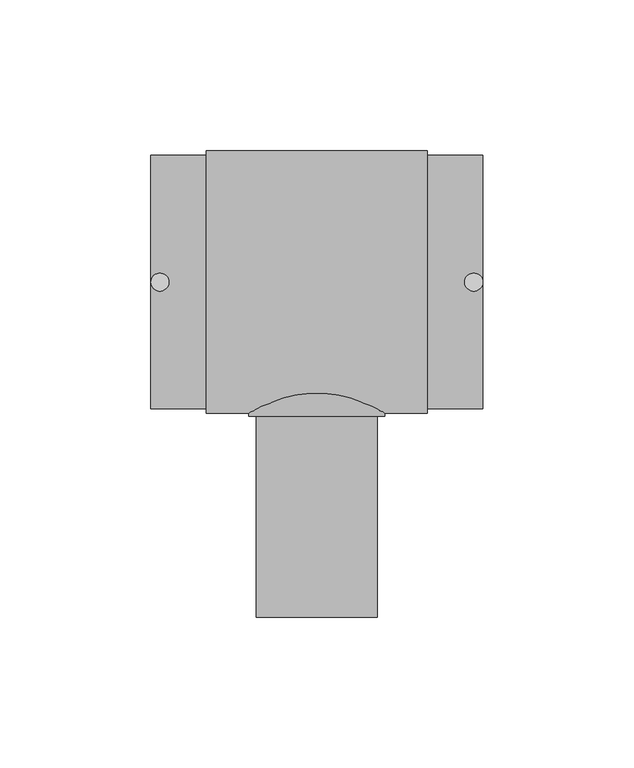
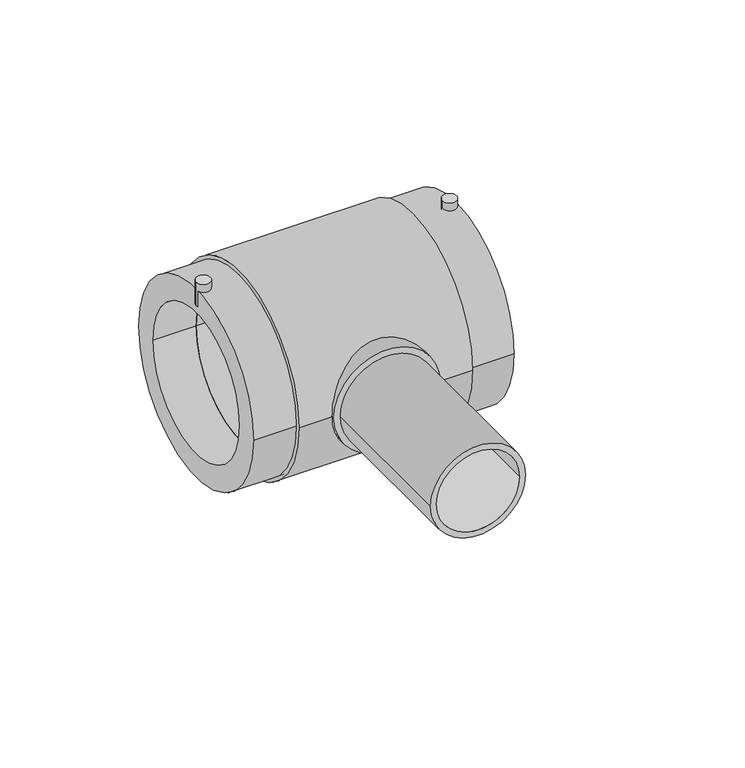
"""IFC4 building model written with IfcOpenShell, lengths in millimetres: pipe fitting geometry, EGB_VASEN_ PPR_Te electrosoldable WXRD300_Te reducida electrosoldable WXRD310 : Te electrosoldable."""

import ifcopenshell
import ifcopenshell.guid

model = None  # the IFC model being written
_history = None  # IfcOwnerHistory: only IFC2X3 demands one
_inside = {}  # id of a spatial element -> (the spatial element, [elements in it])
_under = {}  # id of a project, library or spatial element -> (it, [spatial elements below it])
_declared = {}  # id of a project -> (the project, [libraries it declares])
_typed = {}  # id of a type object -> (the type object, [elements of that type])
_made_of = {}  # id of a material, layer set ... -> (it, [elements and type objects made of it])


def new_model(schema):
    """Start an empty IFC model of exactly this schema.

    Asked for "IFC4X3", IfcOpenShell would pick the latest addendum, in which some entities
    have other attributes; the version numbers below select the first issue.
    IFC2X3 requires an IfcOwnerHistory on every rooted entity: one is made here for all.
    """
    global model, _history
    if schema == "IFC4X3":
        model = ifcopenshell.file(schema_version=(4, 3, 0, 0))
    else:
        model = ifcopenshell.file(schema=schema)
    _inside.clear()
    _under.clear()
    _declared.clear()
    _typed.clear()
    _made_of.clear()
    _history = None
    if model.schema == "IFC2X3":
        org = make("IfcOrganization", Name="unknown")
        user = make(
            "IfcPersonAndOrganization",
            ThePerson=make("IfcPerson", FamilyName="unknown"),
            TheOrganization=org,
        )
        app = make(
            "IfcApplication",
            ApplicationDeveloper=org,
            Version="unknown",
            ApplicationFullName="unknown",
            ApplicationIdentifier="unknown",
        )
        _history = make(
            "IfcOwnerHistory",
            OwningUser=user,
            OwningApplication=app,
            ChangeAction="ADDED",
            CreationDate=0,
        )
    return model


def make(cls, **values):
    """One entity of the class cls with the attributes given. An attribute that is None is left unset."""
    return model.create_entity(
        cls, **{name: value for name, value in values.items() if value is not None}
    )


def rooted(cls, **values):
    """An entity with a GlobalId (a new one), such as an element, a storey or a relation."""
    return make(cls, GlobalId=ifcopenshell.guid.new(), OwnerHistory=_history, **values)


def si_unit(unit_type, name, prefix=None):
    """IfcSIUnit, for example si_unit("LENGTHUNIT", "METRE", prefix="MILLI")."""
    return make("IfcSIUnit", UnitType=unit_type, Prefix=prefix, Name=name)


def assignment(units):
    """IfcUnitAssignment: the units of a project."""
    return None if units is None else make("IfcUnitAssignment", Units=units)


def point(xyz):
    """IfcCartesianPoint."""
    return None if xyz is None else make("IfcCartesianPoint", Coordinates=xyz)


def direction(xyz):
    """IfcDirection."""
    return None if xyz is None else make("IfcDirection", DirectionRatios=xyz)


def frame(location, z_axis=None, x_axis=None):
    """IfcAxis2Placement3D, a coordinate frame: its origin and axes. An axis left out is left unset."""
    return make(
        "IfcAxis2Placement3D",
        Location=point(location),
        Axis=direction(z_axis),
        RefDirection=direction(x_axis),
    )


def frame_2d(location, x_axis=None):
    """IfcAxis2Placement2D, a coordinate frame in the plane: its origin and x axis."""
    return make(
        "IfcAxis2Placement2D", Location=point(location), RefDirection=direction(x_axis)
    )


def origin():
    """The frame at (0, 0, 0) with its axes left unset."""
    return frame((0.0, 0.0, 0.0))


def origin_2d():
    """The frame at (0, 0) in the plane with its x axis left unset."""
    return frame_2d((0.0, 0.0))


def place(relative_to, where):
    """IfcLocalPlacement: puts the frame where relative to a parent placement (None: the world)."""
    return make(
        "IfcLocalPlacement", PlacementRelTo=relative_to, RelativePlacement=where
    )


def context(
    kind, dimensions, precision=None, world=None, true_north=None, identifier=None
):
    """IfcGeometricRepresentationContext, for example the 3D "Model" context."""
    return make(
        "IfcGeometricRepresentationContext",
        ContextIdentifier=identifier,
        ContextType=kind,
        CoordinateSpaceDimension=dimensions,
        Precision=precision,
        WorldCoordinateSystem=world,
        TrueNorth=true_north,
    )


def project(units=None, contexts=None):
    """IfcProject with its units and contexts."""
    return rooted(
        "IfcProject",
        Name="project",
        RepresentationContexts=contexts,
        UnitsInContext=assignment(units),
    )


def spatial(cls, under=None, at=None, **own):
    """A site, building, storey or space (cls), placed at a placement, below another one or the project."""
    s = rooted(cls, ObjectPlacement=at, **own)
    if under is not None:
        _under.setdefault(under.id(), (under, []))[1].append(s)
    return s


def circle_curve(where, radius):
    """IfcCircle in the frame where."""
    return make("IfcCircle", Position=where, Radius=radius)


def trimmed(basis, trim1, trim2, sense, master):
    """IfcTrimmedCurve: the piece of a basis curve between two trims."""
    return make(
        "IfcTrimmedCurve",
        BasisCurve=basis,
        Trim1=trim1,
        Trim2=trim2,
        SenseAgreement=sense,
        MasterRepresentation=master,
    )


def segment(curve, same_sense, transition):
    """IfcCompositeCurveSegment."""
    return make(
        "IfcCompositeCurveSegment",
        Transition=transition,
        SameSense=same_sense,
        ParentCurve=curve,
    )


def composite_curve(segments, self_intersect=None):
    """IfcCompositeCurve: segments joined end to end."""
    return make("IfcCompositeCurve", Segments=segments, SelfIntersect=self_intersect)


def outline(outer, holes=None, kind="AREA"):
    """IfcArbitraryClosedProfileDef: a profile drawn as a closed curve; with holes, ...WithVoids."""
    if holes is None:
        return make("IfcArbitraryClosedProfileDef", ProfileType=kind, OuterCurve=outer)
    return make(
        "IfcArbitraryProfileDefWithVoids",
        ProfileType=kind,
        OuterCurve=outer,
        InnerCurves=holes,
    )


def extrude(swept, where, along, depth):
    """IfcExtrudedAreaSolid: the profile swept, set in the frame where, extruded along a direction by depth."""
    return make(
        "IfcExtrudedAreaSolid",
        SweptArea=swept,
        Position=where,
        ExtrudedDirection=direction(along),
        Depth=depth,
    )


def shape(context_of_items, identifier, shape_type, items):
    """IfcShapeRepresentation: the items that make up one representation, for example the "Body"."""
    return make(
        "IfcShapeRepresentation",
        ContextOfItems=context_of_items,
        RepresentationIdentifier=identifier,
        RepresentationType=shape_type,
        Items=items,
    )


def source(mapping_origin, context_of_items, identifier, shape_type, items):
    """IfcRepresentationMap: a shape defined once, which mapped items show again and again."""
    return make(
        "IfcRepresentationMap",
        MappingOrigin=mapping_origin,
        MappedRepresentation=shape(context_of_items, identifier, shape_type, items),
    )


def transform(
    local_origin,
    x_axis=None,
    y_axis=None,
    z_axis=None,
    scale=None,
    scale2=None,
    scale3=None,
    uniform=True,
):
    """IfcCartesianTransformationOperator3D, or its non-uniform kind. x_axis, y_axis, z_axis: its Axis1, 2, 3."""
    if uniform:
        return make(
            "IfcCartesianTransformationOperator3D",
            Axis1=direction(x_axis),
            Axis2=direction(y_axis),
            LocalOrigin=point(local_origin),
            Scale=scale,
            Axis3=direction(z_axis),
        )
    return make(
        "IfcCartesianTransformationOperator3DnonUniform",
        Axis1=direction(x_axis),
        Axis2=direction(y_axis),
        LocalOrigin=point(local_origin),
        Scale=scale,
        Axis3=direction(z_axis),
        Scale2=scale2,
        Scale3=scale3,
    )


def mapped(mapping_source, mapping_target):
    """IfcMappedItem: shows the shape of a source again, moved by a transform."""
    return make(
        "IfcMappedItem", MappingSource=mapping_source, MappingTarget=mapping_target
    )


def made_of(thing, what):
    """Note that an element or type object is made of a material, layer set ...; save() writes the relation."""
    if what is not None:
        _made_of.setdefault(what.id(), (what, []))[1].append(thing)
    return thing


def element(
    cls,
    number,
    at=None,
    inside=None,
    cuts=None,
    type_object=None,
    material=None,
    context=None,
    identifier="Body",
    shape_type=None,
    held_by="IfcProductDefinitionShape",
    body=None,
    shapes=None,
    **own,
):
    """One element of the class cls, such as IfcWall. Its Tag is "e" and its number.

    at: its placement. inside: the storey or other place that contains it. cuts: it is an
    opening in that element (IfcRelVoidsElement). A single representation is given by context,
    identifier, shape_type and body (its items); several are given by shapes. held_by: the class
    of the entity that holds the representations. save() writes the other relations.
    """
    e = rooted(cls, Tag="e%d" % number, ObjectPlacement=at, **own)
    if body is not None:
        shapes = [shape(context, identifier, shape_type, body)]
    if shapes is not None:
        e.Representation = make(held_by, Representations=shapes)
    if inside is not None:
        _inside.setdefault(inside.id(), (inside, []))[1].append(e)
    if cuts is not None:
        rooted(
            "IfcRelVoidsElement", RelatingBuildingElement=cuts, RelatedOpeningElement=e
        )
    if type_object is not None:
        _typed.setdefault(type_object.id(), (type_object, []))[1].append(e)
    return made_of(e, material)


def aggregate(whole, parts):
    """IfcRelAggregates: a whole, such as a stair, and the parts it consists of."""
    return rooted("IfcRelAggregates", RelatingObject=whole, RelatedObjects=parts)


def save(model, path):
    """Write the relations noted so far, then the file.

    IfcRelAggregates (storeys below a building ...), IfcRelContainedInSpatialStructure (elements
    in a storey), IfcRelDefinesByType, IfcRelAssociatesMaterial and IfcRelDeclares: one each for
    every whole, place, type object, material and project.
    """
    for whole, parts in _under.values():
        aggregate(whole, parts)
    for where, things in _inside.values():
        rooted(
            "IfcRelContainedInSpatialStructure",
            RelatedElements=things,
            RelatingStructure=where,
        )
    for kind, things in _typed.values():
        rooted("IfcRelDefinesByType", RelatedObjects=things, RelatingType=kind)
    for what, things in _made_of.values():
        rooted("IfcRelAssociatesMaterial", RelatedObjects=things, RelatingMaterial=what)
    for by, libraries in _declared.values():
        rooted("IfcRelDeclares", RelatingContext=by, RelatedDefinitions=libraries)
    model.write(path)


def pipe_fitting_9d0549a8(model_context):
    return source(origin(), model_context, "Body", "SweptSolid", [
        extrude(outline(composite_curve([segment(trimmed(circle_curve(frame_2d((-52.0, 0.0)), 3.0), [point((-55.0, 0.0))], [point((-49.0, 0.0))], False, "CARTESIAN"), True, "CONTINUOUS"), segment(trimmed(circle_curve(frame_2d((-52.0, 0.0)), 3.0), [point((-49.0, 0.0))], [point((-55.0, 0.0))], False, "CARTESIAN"), True, "CONTINUOUS")], self_intersect=False)), frame((0.0, 0.0, 34.5), z_axis=(0.0, 0.0, 1.0), x_axis=(1.0, 0.0, 0.0)), (0.0, 0.0, 1.0), 10.5),
        extrude(outline(composite_curve([segment(trimmed(circle_curve(frame_2d((52.0, 0.0)), 3.0), [point((49.0, 0.0))], [point((55.0, 0.0))], False, "CARTESIAN"), True, "CONTINUOUS"), segment(trimmed(circle_curve(frame_2d((52.0, 0.0)), 3.0), [point((55.0, 0.0))], [point((49.0, 0.0))], False, "CARTESIAN"), True, "CONTINUOUS")], self_intersect=False)), frame((0.0, 0.0, 34.5), z_axis=(0.0, 0.0, 1.0), x_axis=(1.0, 0.0, 0.0)), (0.0, 0.0, 1.0), 10.5),
        extrude(outline(composite_curve([segment(trimmed(circle_curve(origin_2d(), 22.5), [point((0.0, 22.5))], [point((0.0, -22.5))], False, "CARTESIAN"), True, "CONTINUOUS"), segment(trimmed(circle_curve(origin_2d(), 22.5), [point((0.0, -22.5))], [point((0.0, 22.5))], False, "CARTESIAN"), True, "CONTINUOUS")], self_intersect=False)), frame((0.0, -44.4, 0.0), z_axis=(0.0, 1.0, 0.0), x_axis=(0.0, 0.0, 1.0)), (0.0, 0.0, 1.0), 44.4),
        extrude(outline(composite_curve([segment(trimmed(circle_curve(origin_2d(), 20.0), [point((0.0, -20.0))], [point((0.0, 20.0))], False, "CARTESIAN"), True, "CONTINUOUS"), segment(trimmed(circle_curve(origin_2d(), 20.0), [point((0.0, 20.0))], [point((0.0, -20.0))], False, "CARTESIAN"), True, "CONTINUOUS")], self_intersect=False), holes=[composite_curve([segment(trimmed(circle_curve(origin_2d(), 17.5), [point((0.0, -17.5))], [point((0.0, 17.5))], True, "CARTESIAN"), True, "CONTINUOUS"), segment(trimmed(circle_curve(origin_2d(), 17.5), [point((0.0, 17.5))], [point((0.0, -17.5))], True, "CARTESIAN"), True, "CONTINUOUS")], self_intersect=False)]), frame((0.0, -111.0, 0.0), z_axis=(0.0, 1.0, 0.0), x_axis=(0.0, 0.0, 1.0)), (0.0, 0.0, 1.0), 66.6),
        extrude(outline(composite_curve([segment(trimmed(circle_curve(origin_2d(), 43.5), [point((-43.5, 0.0))], [point((43.5, 0.0))], False, "CARTESIAN"), True, "CONTINUOUS"), segment(trimmed(circle_curve(origin_2d(), 43.5), [point((43.5, 0.0))], [point((-43.5, 0.0))], False, "CARTESIAN"), True, "CONTINUOUS")], self_intersect=False), holes=[composite_curve([segment(trimmed(circle_curve(origin_2d(), 31.5), [point((-31.5, 0.0))], [point((31.5, 0.0))], True, "CARTESIAN"), True, "CONTINUOUS"), segment(trimmed(circle_curve(origin_2d(), 31.5), [point((31.5, 0.0))], [point((-31.5, 0.0))], True, "CARTESIAN"), True, "CONTINUOUS")], self_intersect=False)]), frame((-36.6666667, 0.0, 0.0), z_axis=(1.0, 0.0, 0.0), x_axis=(0.0, 1.0, 0.0)), (0.0, 0.0, 1.0), 73.3333333),
        extrude(outline(composite_curve([segment(trimmed(circle_curve(origin_2d(), 42.0), [point((-42.0, 0.0))], [point((42.0, 0.0))], False, "CARTESIAN"), True, "CONTINUOUS"), segment(trimmed(circle_curve(origin_2d(), 42.0), [point((42.0, 0.0))], [point((-42.0, 0.0))], False, "CARTESIAN"), True, "CONTINUOUS")], self_intersect=False), holes=[composite_curve([segment(trimmed(circle_curve(origin_2d(), 31.5), [point((-31.5, 0.0))], [point((31.5, 0.0))], True, "CARTESIAN"), True, "CONTINUOUS"), segment(trimmed(circle_curve(origin_2d(), 31.5), [point((31.5, 0.0))], [point((-31.5, 0.0))], True, "CARTESIAN"), True, "CONTINUOUS")], self_intersect=False)]), frame((-55.0, 0.0, 0.0), z_axis=(1.0, 0.0, 0.0), x_axis=(0.0, 1.0, 0.0)), (0.0, 0.0, 1.0), 110.0),
    ])


if __name__ == "__main__":
    model = new_model("IFC4")
    model_context = context("Model", 3, world=origin())
    ifc_project = project(units=[si_unit("LENGTHUNIT", "METRE", prefix="MILLI")], contexts=[model_context])
    site = spatial("IfcSite", under=ifc_project)
    building = spatial("IfcBuilding", under=site)
    placement = place(None, origin())
    pipe_fitting_shape = pipe_fitting_9d0549a8(model_context)
    element("IfcPipeFitting", 1, ObjectType="EGB_VASEN_ PPR_Te electrosoldable WXRD300_Te reducida electrosoldable WXRD310 : Te electrosoldable", at=placement, inside=building, context=model_context, shape_type="MappedRepresentation", body=[
        mapped(pipe_fitting_shape, transform((0.0, 0.0, 0.0), x_axis=(1.0, 0.0, 0.0), y_axis=(0.0, 1.0, 0.0), z_axis=(0.0, 0.0, 1.0))),
    ])
    save(model, "model.ifc")
